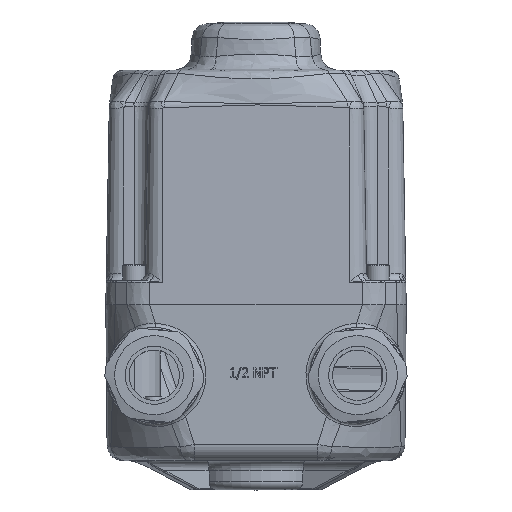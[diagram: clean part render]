
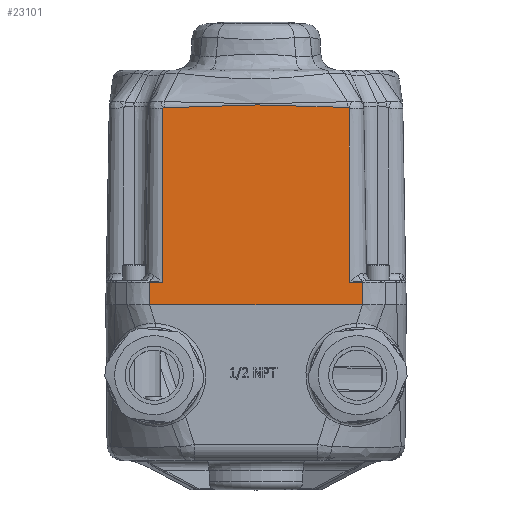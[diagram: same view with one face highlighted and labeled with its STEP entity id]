
A CAD part, top view. The second image highlights one B-rep face of the part: STEP entity #23101.
In plain terms, the highlighted planar face has unit normal (0, 0.018, 1).
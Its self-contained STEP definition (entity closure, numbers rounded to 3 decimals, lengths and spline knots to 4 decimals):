
#2472=B_SPLINE_CURVE_WITH_KNOTS('',3,(#61555,#61556,#61557,#61558,#61559),
 .UNSPECIFIED.,.F.,.F.,(4,1,4),(0.,0.0257,
0.0514),.UNSPECIFIED.);
#2473=B_SPLINE_CURVE_WITH_KNOTS('',3,(#61629,#61630,#61631,#61632,#61633,
#61634,#61635,#61636,#61637,#61638,#61639,#61640,#61641,#61642,#61643,#61644,
#61645),.UNSPECIFIED.,.F.,.F.,(4,1,1,1,1,1,1,1,1,1,1,1,1,1,4),(0.,0.0257,
0.0514,0.1028,0.2056,0.4113,
0.8225,1.645,2.4675,3.29,4.1125,
4.935,5.3463,5.5519,5.7575),
 .UNSPECIFIED.);
#2474=B_SPLINE_CURVE_WITH_KNOTS('',3,(#61671,#61672,#61673,#61674,#61675,
#61676),.UNSPECIFIED.,.F.,.F.,(4,1,1,4),(0.,0.0183,
0.0274,0.0639),.UNSPECIFIED.);
#4739=FACE_OUTER_BOUND('',#6644,.T.);
#6644=EDGE_LOOP('',(#20786,#20787,#20788,#20789,#20790,#20791,#20792,#20793,
#20794,#20795));
#8055=LINE('',#61530,#9437);
#8056=LINE('',#61532,#9438);
#8057=LINE('',#61678,#9439);
#8058=LINE('',#61680,#9440);
#8078=LINE('',#63368,#9460);
#8091=LINE('',#63401,#9473);
#8092=LINE('',#63403,#9474);
#9437=VECTOR('',#30275,0.1633);
#9438=VECTOR('',#30278,2.1595);
#9439=VECTOR('',#30285,2.1612);
#9440=VECTOR('',#30288,0.1633);
#9460=VECTOR('',#30450,0.2754);
#9473=VECTOR('',#30485,0.2754);
#9474=VECTOR('',#30488,2.6366);
#11448=VERTEX_POINT('',#59869);
#11451=VERTEX_POINT('',#59940);
#11457=VERTEX_POINT('',#60013);
#11458=VERTEX_POINT('',#60061);
#11518=VERTEX_POINT('',#61349);
#11529=VERTEX_POINT('',#61526);
#11530=VERTEX_POINT('',#61553);
#11531=VERTEX_POINT('',#61628);
#11594=VERTEX_POINT('',#63367);
#11603=VERTEX_POINT('',#63399);
#14566=EDGE_CURVE('',#11529,#11448,#8055,.T.);
#14567=EDGE_CURVE('',#11448,#11451,#8056,.T.);
#14569=EDGE_CURVE('',#11451,#11530,#2472,.T.);
#14570=EDGE_CURVE('',#11530,#11531,#2473,.T.);
#14572=EDGE_CURVE('',#11531,#11457,#2474,.T.);
#14573=EDGE_CURVE('',#11458,#11457,#8057,.T.);
#14574=EDGE_CURVE('',#11458,#11518,#8058,.T.);
#14690=EDGE_CURVE('',#11594,#11518,#8078,.T.);
#14707=EDGE_CURVE('',#11603,#11529,#8091,.T.);
#14708=EDGE_CURVE('',#11594,#11603,#8092,.T.);
#20786=ORIENTED_EDGE('',*,*,#14574,.F.);
#20787=ORIENTED_EDGE('',*,*,#14573,.T.);
#20788=ORIENTED_EDGE('',*,*,#14572,.F.);
#20789=ORIENTED_EDGE('',*,*,#14570,.F.);
#20790=ORIENTED_EDGE('',*,*,#14569,.F.);
#20791=ORIENTED_EDGE('',*,*,#14567,.F.);
#20792=ORIENTED_EDGE('',*,*,#14566,.F.);
#20793=ORIENTED_EDGE('',*,*,#14707,.F.);
#20794=ORIENTED_EDGE('',*,*,#14708,.F.);
#20795=ORIENTED_EDGE('',*,*,#14690,.T.);
#21734=PLANE('',#25143);
#23101=ADVANCED_FACE('',(#4739),#21734,.T.);
#25143=AXIS2_PLACEMENT_3D('',#63402,#30486,#30487);
#30275=DIRECTION('',(1.,0.,0.));
#30278=DIRECTION('',(0.,1.,-0.017));
#30285=DIRECTION('',(0.,1.,-0.017));
#30288=DIRECTION('',(1.,0.,0.));
#30450=DIRECTION('',(0.,1.,-0.017));
#30485=DIRECTION('',(0.,1.,-0.017));
#30486=DIRECTION('center_axis',(0.,0.017,1.));
#30487=DIRECTION('ref_axis',(1.,0.,0.));
#30488=DIRECTION('',(-1.,0.,0.));
#59869=CARTESIAN_POINT('',(-1.155,0.2753,1.8552));
#59940=CARTESIAN_POINT('',(-1.155,2.4345,1.8175));
#60013=CARTESIAN_POINT('',(1.155,2.4362,1.8175));
#60061=CARTESIAN_POINT('',(1.155,0.2753,1.8552));
#61349=CARTESIAN_POINT('',(1.3183,0.2753,1.8552));
#61526=CARTESIAN_POINT('',(-1.3183,0.2753,1.8552));
#61530=CARTESIAN_POINT('',(-0.203,0.2753,1.8552));
#61532=CARTESIAN_POINT('',(-1.155,0.,1.86));
#61553=CARTESIAN_POINT('',(-1.1351,2.4383,1.8174));
#61555=CARTESIAN_POINT('Ctrl Pts',(-1.155,2.4345,1.8175));
#61556=CARTESIAN_POINT('Ctrl Pts',(-1.1518,2.4355,1.8175));
#61557=CARTESIAN_POINT('Ctrl Pts',(-1.1452,2.4372,1.8175));
#61558=CARTESIAN_POINT('Ctrl Pts',(-1.1385,2.4382,1.8174));
#61559=CARTESIAN_POINT('Ctrl Pts',(-1.1351,2.4383,1.8174));
#61628=CARTESIAN_POINT('',(1.1306,2.4424,1.8174));
#61629=CARTESIAN_POINT('Ctrl Pts',(-1.1351,2.4383,1.8174));
#61630=CARTESIAN_POINT('Ctrl Pts',(-1.1318,2.4384,1.8174));
#61631=CARTESIAN_POINT('Ctrl Pts',(-1.125,2.4387,1.8174));
#61632=CARTESIAN_POINT('Ctrl Pts',(-1.1115,2.4393,1.8174));
#61633=CARTESIAN_POINT('Ctrl Pts',(-1.088,2.4404,1.8174));
#61634=CARTESIAN_POINT('Ctrl Pts',(-1.0408,2.4426,1.8174));
#61635=CARTESIAN_POINT('Ctrl Pts',(-0.9464,2.4469,1.8173));
#61636=CARTESIAN_POINT('Ctrl Pts',(-0.7577,2.4554,
1.8171));
#61637=CARTESIAN_POINT('Ctrl Pts',(-0.488,2.4655,
1.817));
#61638=CARTESIAN_POINT('Ctrl Pts',(-0.1643,2.4725,
1.8168));
#61639=CARTESIAN_POINT('Ctrl Pts',(0.1596,2.4735,1.8168));
#61640=CARTESIAN_POINT('Ctrl Pts',(0.4834,2.4684,1.8169));
#61641=CARTESIAN_POINT('Ctrl Pts',(0.7532,2.4593,1.8171));
#61642=CARTESIAN_POINT('Ctrl Pts',(0.9419,2.4512,1.8172));
#61643=CARTESIAN_POINT('Ctrl Pts',(1.0498,2.4462,1.8173));
#61644=CARTESIAN_POINT('Ctrl Pts',(1.1037,2.4437,1.8173));
#61645=CARTESIAN_POINT('Ctrl Pts',(1.1306,2.4424,1.8174));
#61671=CARTESIAN_POINT('Ctrl Pts',(1.1306,2.4424,1.8174));
#61672=CARTESIAN_POINT('Ctrl Pts',(1.133,2.4423,1.8174));
#61673=CARTESIAN_POINT('Ctrl Pts',(1.1366,2.4418,1.8174));
#61674=CARTESIAN_POINT('Ctrl Pts',(1.1447,2.4399,1.8174));
#61675=CARTESIAN_POINT('Ctrl Pts',(1.1505,2.4379,1.8174));
#61676=CARTESIAN_POINT('Ctrl Pts',(1.155,2.4362,1.8175));
#61678=CARTESIAN_POINT('',(1.155,0.,1.86));
#61680=CARTESIAN_POINT('',(1.358,0.2753,1.8552));
#63367=CARTESIAN_POINT('',(1.3183,0.,1.86));
#63368=CARTESIAN_POINT('',(1.3183,0.,1.86));
#63399=CARTESIAN_POINT('',(-1.3183,0.,1.86));
#63401=CARTESIAN_POINT('',(-1.3183,0.,1.86));
#63402=CARTESIAN_POINT('Origin',(1.155,0.,1.86));
#63403=CARTESIAN_POINT('',(-1.155,0.,1.86));
